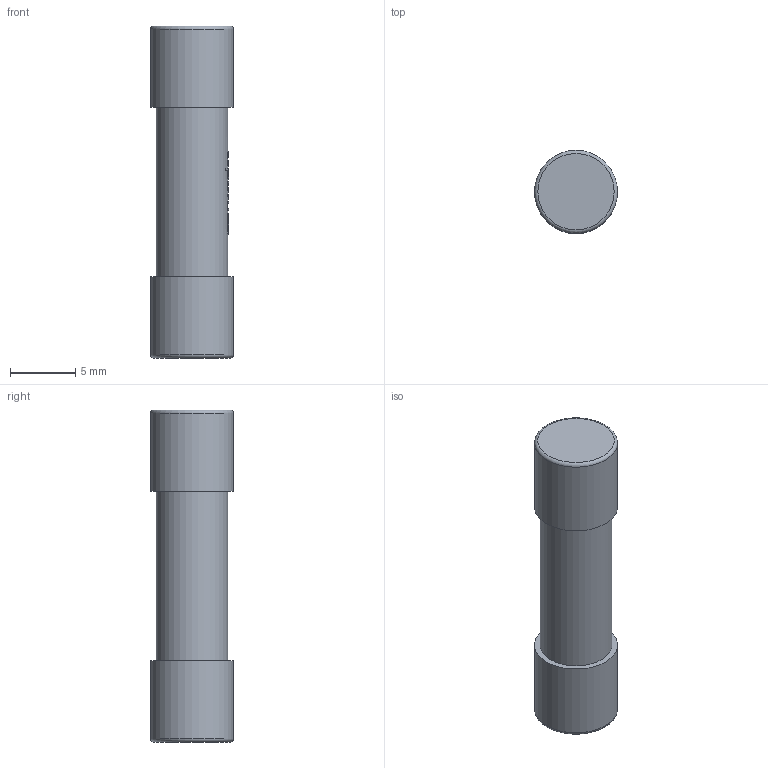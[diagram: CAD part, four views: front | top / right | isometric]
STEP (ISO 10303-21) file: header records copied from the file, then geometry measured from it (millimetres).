
FILE_DESCRIPTION(/* description */ (''),/* implementation_level */ '2;1');
FILE_NAME(/* name */ 'C:\Users\Hani\Desktop\work\FSX\FSX.stp',/* time_stamp */ '2021-08-22T17:16:07-07:00',/* author */ ('Hani'),/* organization */ (''),/* preprocessor_version */ 'ST-DEVELOPER v17',/* originating_system */ 'Autodesk Inventor 2019',/* authorisation */ '');
FILE_SCHEMA (('AUTOMOTIVE_DESIGN { 1 0 10303 214 3 1 1 }'));
Length unit declared in the file: inch
Products named in the file (1): FSX
Bounding box: 6.35 x 6.35 x 25.4 mm (x, y, z)
Volume: 694.8 mm3; surface area: 751.8 mm2
Topology: 1 solids, 1 shells, 148 faces, 415 edges, 276 vertices
Faces by surface type: bspline 67, plane 62, cylinder 17, torus 2
Full cylindrical faces by diameter (mm): 5.486 x1, 5.588 x1, 6.35 x2
Entity records: 6248 total; most frequent: CARTESIAN_POINT 2754, ORIENTED_EDGE 830, DIRECTION 523, EDGE_CURVE 415, VERTEX_POINT 276, LINE 189, VECTOR 189, AXIS2_PLACEMENT_3D 167
